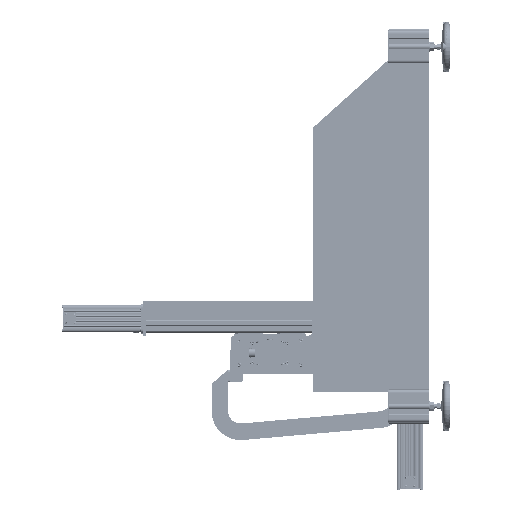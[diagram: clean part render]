
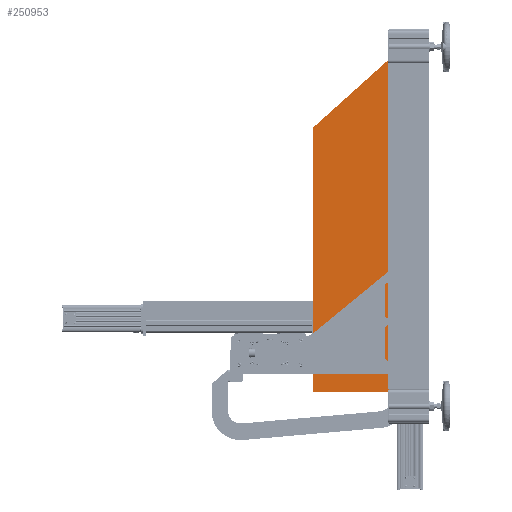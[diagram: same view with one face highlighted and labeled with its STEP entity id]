
A CAD part, left-side view. The second image highlights one B-rep face of the part: STEP entity #250953.
In plain terms, the highlighted planar face has unit normal (-1, 0, 0).
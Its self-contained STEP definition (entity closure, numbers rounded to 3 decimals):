
#1069 = CARTESIAN_POINT ( 'NONE',  ( -291., 95., 400. ) ) ;
#8617 = ORIENTED_EDGE ( 'NONE', *, *, #61196, .T. ) ;
#13798 = CARTESIAN_POINT ( 'NONE',  ( -291., 150., 400. ) ) ;
#15616 = VERTEX_POINT ( 'NONE', #339066 ) ;
#18481 = DIRECTION ( 'NONE',  ( 0., 0., 1. ) ) ;
#27272 = CARTESIAN_POINT ( 'NONE',  ( -291., 135., 100. ) ) ;
#27729 = CARTESIAN_POINT ( 'NONE',  ( -291., 330., 238. ) ) ;
#42229 = CARTESIAN_POINT ( 'NONE',  ( -291., 135., 304.3 ) ) ;
#44961 = ORIENTED_EDGE ( 'NONE', *, *, #220802, .T. ) ;
#46621 = DIRECTION ( 'NONE',  ( 0., 0., -1. ) ) ;
#49004 = ORIENTED_EDGE ( 'NONE', *, *, #415260, .T. ) ;
#61196 = EDGE_CURVE ( 'NONE', #216057, #437541, #71172, .T. ) ;
#66850 = DIRECTION ( 'NONE',  ( 0., 0., 1. ) ) ;
#71080 = VECTOR ( 'NONE', #46621, 1000. ) ;
#71172 = LINE ( 'NONE', #242956, #71080 ) ;
#71639 = CARTESIAN_POINT ( 'NONE',  ( -291., 95., -400. ) ) ;
#83449 = AXIS2_PLACEMENT_3D ( 'NONE', #446532, #210259, #486086 ) ;
#87799 = CARTESIAN_POINT ( 'NONE',  ( -291., 330., -400. ) ) ;
#103077 = ORIENTED_EDGE ( 'NONE', *, *, #452324, .T. ) ;
#106684 = VERTEX_POINT ( 'NONE', #499846 ) ;
#110262 = DIRECTION ( 'NONE',  ( 1., 0., 0. ) ) ;
#123499 = EDGE_LOOP ( 'NONE', ( #49004 ) ) ;
#123764 = CIRCLE ( 'NONE', #253594, 4.3 ) ;
#131253 = VECTOR ( 'NONE', #249631, 1000. ) ;
#131377 = EDGE_LOOP ( 'NONE', ( #413817 ) ) ;
#131765 = LINE ( 'NONE', #87799, #131253 ) ;
#136136 = AXIS2_PLACEMENT_3D ( 'NONE', #71639, #387060, #150874 ) ;
#147463 = VERTEX_POINT ( 'NONE', #451775 ) ;
#150874 = DIRECTION ( 'NONE',  ( 0., 0., 1. ) ) ;
#182155 = VERTEX_POINT ( 'NONE', #13798 ) ;
#183829 = EDGE_LOOP ( 'NONE', ( #479753 ) ) ;
#194768 = EDGE_CURVE ( 'NONE', #437541, #106684, #131765, .T. ) ;
#199292 = DIRECTION ( 'NONE',  ( 0., 1., 0. ) ) ;
#199472 = EDGE_CURVE ( 'NONE', #214203, #214203, #306634, .T. ) ;
#206770 = CARTESIAN_POINT ( 'NONE',  ( -291., 135., 104.3 ) ) ;
#210259 = DIRECTION ( 'NONE',  ( 1., 0., 0. ) ) ;
#212945 = ORIENTED_EDGE ( 'NONE', *, *, #326941, .T. ) ;
#214203 = VERTEX_POINT ( 'NONE', #490266 ) ;
#216057 = VERTEX_POINT ( 'NONE', #27729 ) ;
#219305 = VECTOR ( 'NONE', #404025, 1000. ) ;
#220285 = LINE ( 'NONE', #245308, #219305 ) ;
#220802 = EDGE_CURVE ( 'NONE', #435450, #435450, #358253, .T. ) ;
#225982 = EDGE_CURVE ( 'NONE', #147463, #182155, #423299, .T. ) ;
#230243 = EDGE_LOOP ( 'NONE', ( #456938, #103077, #259096, #212945, #8617 ) ) ;
#242956 = CARTESIAN_POINT ( 'NONE',  ( -291., 330., 238. ) ) ;
#245308 = CARTESIAN_POINT ( 'NONE',  ( -291., 95., -400. ) ) ;
#249631 = DIRECTION ( 'NONE',  ( 0., -1., 0. ) ) ;
#250953 = ADVANCED_FACE ( 'NONE', ( #458241, #461324, #459674, #462311, #457756 ), #268042, .T. ) ;
#253594 = AXIS2_PLACEMENT_3D ( 'NONE', #27272, #302917, #66850 ) ;
#254445 = DIRECTION ( 'NONE',  ( 1., 0., 0. ) ) ;
#259096 = ORIENTED_EDGE ( 'NONE', *, *, #225982, .T. ) ;
#268042 = PLANE ( 'NONE',  #136136 ) ;
#277036 = VERTEX_POINT ( 'NONE', #206770 ) ;
#279440 = DIRECTION ( 'NONE',  ( 0., 0.743, -0.669 ) ) ;
#302917 = DIRECTION ( 'NONE',  ( 1., 0., 0. ) ) ;
#302987 = EDGE_LOOP ( 'NONE', ( #44961 ) ) ;
#306634 = CIRCLE ( 'NONE', #422506, 4.3 ) ;
#325151 = CIRCLE ( 'NONE', #372731, 4.3 ) ;
#326941 = EDGE_CURVE ( 'NONE', #182155, #216057, #400343, .T. ) ;
#339066 = CARTESIAN_POINT ( 'NONE',  ( -291., 135., -95.7 ) ) ;
#346507 = CARTESIAN_POINT ( 'NONE',  ( -291., 135., -100. ) ) ;
#358253 = CIRCLE ( 'NONE', #83449, 4.3 ) ;
#360106 = EDGE_CURVE ( 'NONE', #277036, #277036, #123764, .T. ) ;
#372731 = AXIS2_PLACEMENT_3D ( 'NONE', #346507, #110262, #386167 ) ;
#386167 = DIRECTION ( 'NONE',  ( 0., 0., 1. ) ) ;
#387060 = DIRECTION ( 'NONE',  ( -1., 0., 0. ) ) ;
#399862 = VECTOR ( 'NONE', #279440, 1000. ) ;
#400343 = LINE ( 'NONE', #436462, #399862 ) ;
#404025 = DIRECTION ( 'NONE',  ( 0., 0., 1. ) ) ;
#413817 = ORIENTED_EDGE ( 'NONE', *, *, #360106, .T. ) ;
#415260 = EDGE_CURVE ( 'NONE', #15616, #15616, #325151, .T. ) ;
#420163 = VECTOR ( 'NONE', #199292, 1000. ) ;
#422506 = AXIS2_PLACEMENT_3D ( 'NONE', #490727, #254445, #18481 ) ;
#423299 = LINE ( 'NONE', #1069, #420163 ) ;
#427949 = CARTESIAN_POINT ( 'NONE',  ( -291., 330., -400. ) ) ;
#435450 = VERTEX_POINT ( 'NONE', #42229 ) ;
#436462 = CARTESIAN_POINT ( 'NONE',  ( -291., 150., 400. ) ) ;
#437541 = VERTEX_POINT ( 'NONE', #427949 ) ;
#446532 = CARTESIAN_POINT ( 'NONE',  ( -291., 135., 300. ) ) ;
#451775 = CARTESIAN_POINT ( 'NONE',  ( -291., 95., 400. ) ) ;
#452324 = EDGE_CURVE ( 'NONE', #106684, #147463, #220285, .T. ) ;
#456938 = ORIENTED_EDGE ( 'NONE', *, *, #194768, .T. ) ;
#457756 = FACE_OUTER_BOUND ( 'NONE', #230243, .T. ) ;
#458241 = FACE_BOUND ( 'NONE', #302987, .T. ) ;
#459674 = FACE_BOUND ( 'NONE', #123499, .T. ) ;
#461324 = FACE_BOUND ( 'NONE', #131377, .T. ) ;
#462311 = FACE_BOUND ( 'NONE', #183829, .T. ) ;
#479753 = ORIENTED_EDGE ( 'NONE', *, *, #199472, .T. ) ;
#486086 = DIRECTION ( 'NONE',  ( 0., 0., 1. ) ) ;
#490266 = CARTESIAN_POINT ( 'NONE',  ( -291., 135., -295.7 ) ) ;
#490727 = CARTESIAN_POINT ( 'NONE',  ( -291., 135., -300. ) ) ;
#499846 = CARTESIAN_POINT ( 'NONE',  ( -291., 95., -400. ) ) ;
